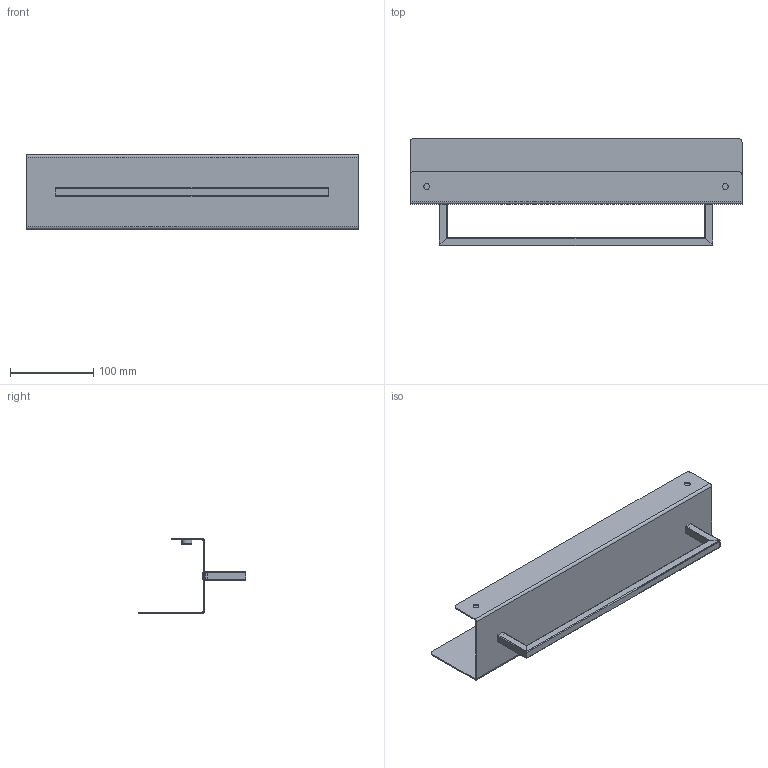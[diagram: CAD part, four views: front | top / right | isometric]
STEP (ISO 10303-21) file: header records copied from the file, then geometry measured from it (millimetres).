
FILE_DESCRIPTION (( 'STEP AP214' ), '1' );
FILE_NAME ('01-002-0400-W-00-00.STEP', '2024-06-03T11:25:40', ( '' ), ( '' ), 'SwSTEP 2.0', 'SolidWorks 2021', '' );
FILE_SCHEMA (( 'AUTOMOTIVE_DESIGN' ));
Length unit declared in the file: millimetre
Products named in the file (8): Nakrêtka klatkowa M5; 01-002-0400-W-00-00; 01-002-0400-W-00-01; 01-002-0400-W-01-00; 01-002-0400-W-01-03; countersunk flat head cross recess screw_din_DIN EN ISO 7046-1 - M5 x 6 - Z - 6N; zaœlepka œruby 13mm; 01-002-0400-W-01-02
Assembly tree (11 placements, depth 3):
  01-002-0400-W-00-00
    01-002-0400-W-00-01
    01-002-0400-W-01-00
      01-002-0400-W-01-02  x2
      01-002-0400-W-01-03
      Nakrêtka klatkowa M5  x2
    countersunk flat head cross recess screw_din_DIN EN ISO 7046-1 - M5 x 6 - Z - 6N  x2
    zaœlepka œruby 13mm  x2
Bounding box: 400 x 130 x 90 mm (x, y, z)
Volume: 139160.5 mm3; surface area: 196686.2 mm2
Topology: 10 solids, 10 shells, 212 faces, 502 edges, 306 vertices
Faces by surface type: plane 110, cylinder 70, cone 16, bspline 8, torus 8
Entity records: 4889 total; most frequent: CARTESIAN_POINT 1641, DIRECTION 615, ORIENTED_EDGE 614, EDGE_CURVE 307, AXIS2_PLACEMENT_3D 217, VERTEX_POINT 189, VECTOR 181, LINE 181
